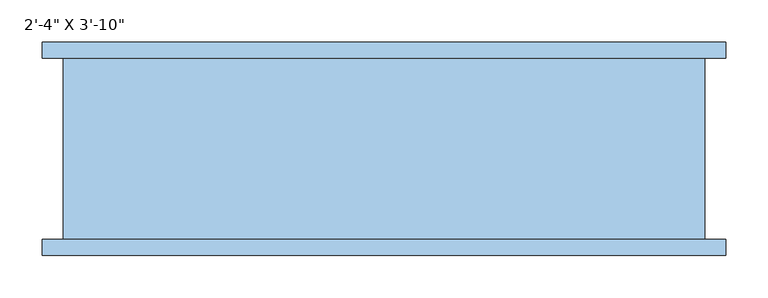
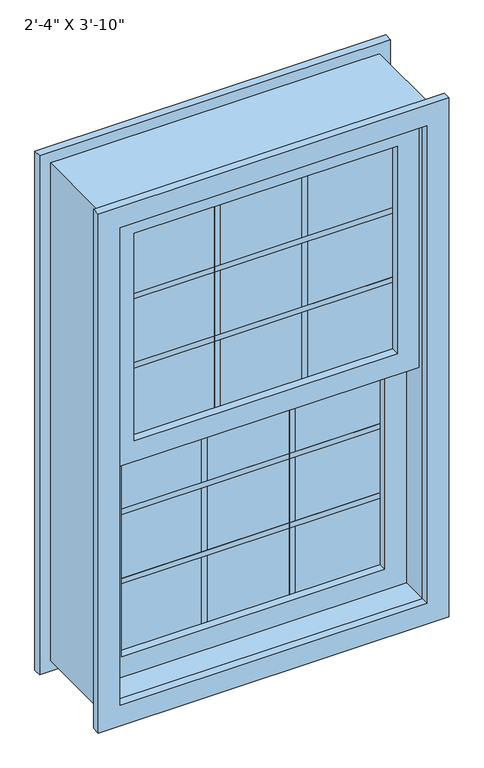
"""IFC4 building model written with IfcOpenShell, lengths in millimetres: window geometry."""

from ifc_helpers import new_model, si_unit, frame, origin, place, context, project, spatial, polyline, outline, extrude, source, transform, mapped, element, save


def window_4b939d1e(model_context):
    return source(origin(), model_context, "Body", "SweptSolid", [
        extrude(outline(polyline([(1981.2, 355.6), (1981.2, -355.6), (1371.6, -355.6), (1371.6, 355.6), (1981.2, 355.6)]), holes=[polyline([(1930.4, 304.8), (1422.4, 304.8), (1422.4, -304.8), (1930.4, -304.8), (1930.4, 304.8)])]), frame((0.0, -95.25, 0.0), z_axis=(0.0, 1.0, 0.0), x_axis=(0.0, 0.0, 1.0)), (0.0, 0.0, 1.0), 50.8),
        extrude(outline(polyline([(-304.8, -12.7), (304.8, -12.7), (304.8, -25.4), (-304.8, -25.4), (-304.8, -12.7)])), frame((0.0, 0.0, 1026.5833333), z_axis=(0.0, 0.0, 1.0), x_axis=(1.0, 0.0, 0.0)), (0.0, 0.0, 1.0), 12.7),
        extrude(outline(polyline([(-304.8, -12.7), (304.8, -12.7), (304.8, -25.4), (-304.8, -25.4), (-304.8, -12.7)])), frame((0.0, 0.0, 1195.9166667), z_axis=(0.0, 0.0, 1.0), x_axis=(1.0, 0.0, 0.0)), (0.0, 0.0, 1.0), 12.7),
        extrude(outline(polyline([(-304.8, -63.5), (304.8, -63.5), (304.8, -76.2), (-304.8, -76.2), (-304.8, -63.5)])), frame((0.0, 0.0, 1754.7166667), z_axis=(0.0, 0.0, 1.0), x_axis=(1.0, 0.0, 0.0)), (0.0, 0.0, 1.0), 12.7),
        extrude(outline(polyline([(-304.8, -63.5), (304.8, -63.5), (304.8, -76.2), (-304.8, -76.2), (-304.8, -63.5)])), frame((0.0, 0.0, 1585.3833333), z_axis=(0.0, 0.0, 1.0), x_axis=(1.0, 0.0, 0.0)), (0.0, 0.0, 1.0), 12.7),
        extrude(outline(polyline([(-107.95, -63.5), (-95.25, -63.5), (-95.25, -76.2), (-107.95, -76.2), (-107.95, -63.5)])), frame((0.0, 0.0, 1422.4), z_axis=(0.0, 0.0, 1.0), x_axis=(1.0, 0.0, 0.0)), (0.0, 0.0, 1.0), 508.0),
        extrude(outline(polyline([(95.25, -63.5), (107.95, -63.5), (107.95, -76.2), (95.25, -76.2), (95.25, -63.5)])), frame((0.0, 0.0, 1422.4), z_axis=(0.0, 0.0, 1.0), x_axis=(1.0, 0.0, 0.0)), (0.0, 0.0, 1.0), 508.0),
        extrude(outline(polyline([(-304.8, -63.5), (304.8, -63.5), (304.8, -76.2), (-304.8, -76.2), (-304.8, -63.5)])), frame((0.0, 0.0, 1422.4), z_axis=(0.0, 0.0, 1.0), x_axis=(1.0, 0.0, 0.0)), (0.0, 0.0, 1.0), 508.0),
        extrude(outline(polyline([(95.25, -12.7), (107.95, -12.7), (107.95, -25.4), (95.25, -25.4), (95.25, -12.7)])), frame((0.0, 0.0, 863.6), z_axis=(0.0, 0.0, 1.0), x_axis=(1.0, 0.0, 0.0)), (0.0, 0.0, 1.0), 508.0),
        extrude(outline(polyline([(-107.95, -12.7), (-95.25, -12.7), (-95.25, -25.4), (-107.95, -25.4), (-107.95, -12.7)])), frame((0.0, 0.0, 863.6), z_axis=(0.0, 0.0, 1.0), x_axis=(1.0, 0.0, 0.0)), (0.0, 0.0, 1.0), 508.0),
        extrude(outline(polyline([(-304.8, -12.7), (304.8, -12.7), (304.8, -25.4), (-304.8, -25.4), (-304.8, -12.7)])), frame((0.0, 0.0, 863.6), z_axis=(0.0, 0.0, 1.0), x_axis=(1.0, 0.0, 0.0)), (0.0, 0.0, 1.0), 508.0),
        extrude(outline(polyline([(1422.4, -355.6), (812.8, -355.6), (812.8, 355.6), (1422.4, 355.6), (1422.4, -355.6)]), holes=[polyline([(1371.6, 304.8), (863.6, 304.8), (863.6, -304.8), (1371.6, -304.8), (1371.6, 304.8)])]), frame((0.0, -44.45, 0.0), z_axis=(0.0, 1.0, 0.0), x_axis=(0.0, 0.0, 1.0)), (0.0, 0.0, 1.0), 50.8),
        extrude(outline(polyline([(2032.0, -406.4), (762.0, -406.4), (762.0, 406.4), (2032.0, 406.4), (2032.0, -406.4)]), holes=[polyline([(1981.2, -355.6), (1981.2, 355.6), (812.8, 355.6), (812.8, -355.6), (1981.2, -355.6)])]), frame((0.0, 107.95, 0.0), z_axis=(0.0, 1.0, 0.0), x_axis=(0.0, 0.0, 1.0)), (0.0, 0.0, 1.0), 19.05),
        extrude(outline(polyline([(2032.0, -406.4), (762.0, -406.4), (762.0, 406.4), (2032.0, 406.4), (2032.0, -406.4)]), holes=[polyline([(1981.2, -355.6), (1981.2, 355.6), (812.8, 355.6), (812.8, -355.6), (1981.2, -355.6)])]), frame((0.0, -127.0, 0.0), z_axis=(0.0, 1.0, 0.0), x_axis=(0.0, 0.0, 1.0)), (0.0, 0.0, 1.0), 19.05),
        extrude(outline(polyline([(2006.6, 381.0), (2006.6, -381.0), (787.4, -381.0), (787.4, 381.0), (2006.6, 381.0)]), holes=[polyline([(1981.2, -355.6), (1981.2, 355.6), (812.8, 355.6), (812.8, -355.6), (1981.2, -355.6)])]), frame((0.0, -107.95, 0.0), z_axis=(0.0, 1.0, 0.0), x_axis=(0.0, 0.0, 1.0)), (0.0, 0.0, 1.0), 215.9),
    ])


if __name__ == "__main__":
    model = new_model("IFC4")
    model_context = context("Model", 3, world=origin())
    ifc_project = project(units=[si_unit("LENGTHUNIT", "METRE", prefix="MILLI")], contexts=[model_context])
    site = spatial("IfcSite", under=ifc_project)
    building = spatial("IfcBuilding", under=site)
    placement = place(None, origin())
    window_shape = window_4b939d1e(model_context)
    element("IfcWindow", 1, ObjectType="C_Window Guilotine : 2'-4\" X 3'-10\"", at=placement, inside=building, context=model_context, shape_type="MappedRepresentation", body=[
        mapped(window_shape, transform((0.0, 0.0, 0.0), x_axis=(1.0, 0.0, 0.0), y_axis=(0.0, 1.0, 0.0), z_axis=(0.0, 0.0, 1.0))),
    ])
    save(model, "model.ifc")
